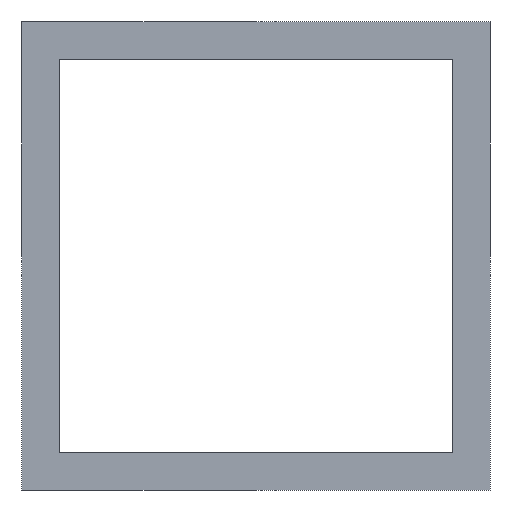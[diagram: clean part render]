
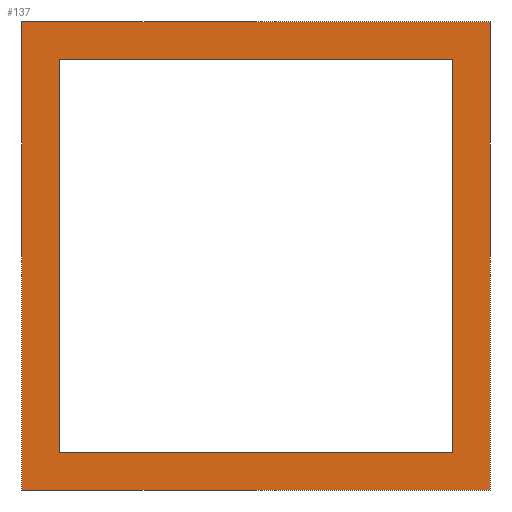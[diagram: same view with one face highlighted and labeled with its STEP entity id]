
A CAD part, front view. The second image highlights one B-rep face of the part: STEP entity #137.
In plain terms, the highlighted planar face has unit normal (0, -1, 0).
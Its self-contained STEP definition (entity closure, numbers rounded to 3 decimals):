
#21 = EDGE_CURVE('',#22,#24,#26,.T.);
#22 = VERTEX_POINT('',#23);
#23 = CARTESIAN_POINT('',(-1000.,-680.,1000.));
#24 = VERTEX_POINT('',#25);
#25 = CARTESIAN_POINT('',(-1000.,-680.,1100.));
#26 = SURFACE_CURVE('',#27,(#31,#43),.PCURVE_S1.);
#27 = LINE('',#28,#29);
#28 = CARTESIAN_POINT('',(-1000.,-680.,1000.));
#29 = VECTOR('',#30,1.);
#30 = DIRECTION('',(0.,0.,1.));
#31 = PCURVE('',#32,#37);
#32 = PLANE('',#33);
#33 = AXIS2_PLACEMENT_3D('',#34,#35,#36);
#34 = CARTESIAN_POINT('',(-1000.,-680.,1000.));
#35 = DIRECTION('',(1.,0.,0.));
#36 = DIRECTION('',(0.,0.,1.));
#37 = DEFINITIONAL_REPRESENTATION('',(#38),#42);
#38 = LINE('',#39,#40);
#39 = CARTESIAN_POINT('',(0.,0.));
#40 = VECTOR('',#41,1.);
#41 = DIRECTION('',(1.,0.));
#42 = ( GEOMETRIC_REPRESENTATION_CONTEXT(2) 
PARAMETRIC_REPRESENTATION_CONTEXT() REPRESENTATION_CONTEXT('2D SPACE',''
  ) );
#43 = PCURVE('',#44,#49);
#44 = PLANE('',#45);
#45 = AXIS2_PLACEMENT_3D('',#46,#47,#48);
#46 = CARTESIAN_POINT('',(-1000.,-680.,1000.));
#47 = DIRECTION('',(0.,1.,0.));
#48 = DIRECTION('',(0.,0.,1.));
#49 = DEFINITIONAL_REPRESENTATION('',(#50),#54);
#50 = LINE('',#51,#52);
#51 = CARTESIAN_POINT('',(0.,0.));
#52 = VECTOR('',#53,1.);
#53 = DIRECTION('',(1.,0.));
#54 = ( GEOMETRIC_REPRESENTATION_CONTEXT(2) 
PARAMETRIC_REPRESENTATION_CONTEXT() REPRESENTATION_CONTEXT('2D SPACE',''
  ) );
#72 = PLANE('',#73);
#73 = AXIS2_PLACEMENT_3D('',#74,#75,#76);
#74 = CARTESIAN_POINT('',(-1000.,-680.,1000.));
#75 = DIRECTION('',(0.,0.,1.));
#76 = DIRECTION('',(1.,0.,0.));
#126 = PLANE('',#127);
#127 = AXIS2_PLACEMENT_3D('',#128,#129,#130);
#128 = CARTESIAN_POINT('',(-1000.,-680.,1100.));
#129 = DIRECTION('',(0.,0.,1.));
#130 = DIRECTION('',(1.,0.,0.));
#137 = ADVANCED_FACE('',(#138,#213),#44,.F.);
#138 = FACE_BOUND('',#139,.F.);
#139 = EDGE_LOOP('',(#140,#163,#164,#187));
#140 = ORIENTED_EDGE('',*,*,#141,.F.);
#141 = EDGE_CURVE('',#22,#142,#144,.T.);
#142 = VERTEX_POINT('',#143);
#143 = CARTESIAN_POINT('',(-900.,-680.,1000.));
#144 = SURFACE_CURVE('',#145,(#149,#156),.PCURVE_S1.);
#145 = LINE('',#146,#147);
#146 = CARTESIAN_POINT('',(-1000.,-680.,1000.));
#147 = VECTOR('',#148,1.);
#148 = DIRECTION('',(1.,0.,0.));
#149 = PCURVE('',#44,#150);
#150 = DEFINITIONAL_REPRESENTATION('',(#151),#155);
#151 = LINE('',#152,#153);
#152 = CARTESIAN_POINT('',(0.,0.));
#153 = VECTOR('',#154,1.);
#154 = DIRECTION('',(0.,1.));
#155 = ( GEOMETRIC_REPRESENTATION_CONTEXT(2) 
PARAMETRIC_REPRESENTATION_CONTEXT() REPRESENTATION_CONTEXT('2D SPACE',''
  ) );
#156 = PCURVE('',#72,#157);
#157 = DEFINITIONAL_REPRESENTATION('',(#158),#162);
#158 = LINE('',#159,#160);
#159 = CARTESIAN_POINT('',(0.,0.));
#160 = VECTOR('',#161,1.);
#161 = DIRECTION('',(1.,0.));
#162 = ( GEOMETRIC_REPRESENTATION_CONTEXT(2) 
PARAMETRIC_REPRESENTATION_CONTEXT() REPRESENTATION_CONTEXT('2D SPACE',''
  ) );
#163 = ORIENTED_EDGE('',*,*,#21,.T.);
#164 = ORIENTED_EDGE('',*,*,#165,.T.);
#165 = EDGE_CURVE('',#24,#166,#168,.T.);
#166 = VERTEX_POINT('',#167);
#167 = CARTESIAN_POINT('',(-900.,-680.,1100.));
#168 = SURFACE_CURVE('',#169,(#173,#180),.PCURVE_S1.);
#169 = LINE('',#170,#171);
#170 = CARTESIAN_POINT('',(-1000.,-680.,1100.));
#171 = VECTOR('',#172,1.);
#172 = DIRECTION('',(1.,0.,0.));
#173 = PCURVE('',#44,#174);
#174 = DEFINITIONAL_REPRESENTATION('',(#175),#179);
#175 = LINE('',#176,#177);
#176 = CARTESIAN_POINT('',(100.,0.));
#177 = VECTOR('',#178,1.);
#178 = DIRECTION('',(0.,1.));
#179 = ( GEOMETRIC_REPRESENTATION_CONTEXT(2) 
PARAMETRIC_REPRESENTATION_CONTEXT() REPRESENTATION_CONTEXT('2D SPACE',''
  ) );
#180 = PCURVE('',#126,#181);
#181 = DEFINITIONAL_REPRESENTATION('',(#182),#186);
#182 = LINE('',#183,#184);
#183 = CARTESIAN_POINT('',(0.,0.));
#184 = VECTOR('',#185,1.);
#185 = DIRECTION('',(1.,0.));
#186 = ( GEOMETRIC_REPRESENTATION_CONTEXT(2) 
PARAMETRIC_REPRESENTATION_CONTEXT() REPRESENTATION_CONTEXT('2D SPACE',''
  ) );
#187 = ORIENTED_EDGE('',*,*,#188,.F.);
#188 = EDGE_CURVE('',#142,#166,#189,.T.);
#189 = SURFACE_CURVE('',#190,(#194,#201),.PCURVE_S1.);
#190 = LINE('',#191,#192);
#191 = CARTESIAN_POINT('',(-900.,-680.,1000.));
#192 = VECTOR('',#193,1.);
#193 = DIRECTION('',(0.,0.,1.));
#194 = PCURVE('',#44,#195);
#195 = DEFINITIONAL_REPRESENTATION('',(#196),#200);
#196 = LINE('',#197,#198);
#197 = CARTESIAN_POINT('',(0.,100.));
#198 = VECTOR('',#199,1.);
#199 = DIRECTION('',(1.,0.));
#200 = ( GEOMETRIC_REPRESENTATION_CONTEXT(2) 
PARAMETRIC_REPRESENTATION_CONTEXT() REPRESENTATION_CONTEXT('2D SPACE',''
  ) );
#201 = PCURVE('',#202,#207);
#202 = PLANE('',#203);
#203 = AXIS2_PLACEMENT_3D('',#204,#205,#206);
#204 = CARTESIAN_POINT('',(-900.,-680.,1000.));
#205 = DIRECTION('',(1.,0.,0.));
#206 = DIRECTION('',(0.,0.,1.));
#207 = DEFINITIONAL_REPRESENTATION('',(#208),#212);
#208 = LINE('',#209,#210);
#209 = CARTESIAN_POINT('',(0.,0.));
#210 = VECTOR('',#211,1.);
#211 = DIRECTION('',(1.,0.));
#212 = ( GEOMETRIC_REPRESENTATION_CONTEXT(2) 
PARAMETRIC_REPRESENTATION_CONTEXT() REPRESENTATION_CONTEXT('2D SPACE',''
  ) );
#213 = FACE_BOUND('',#214,.F.);
#214 = EDGE_LOOP('',(#215,#243,#269,#295));
#215 = ORIENTED_EDGE('',*,*,#216,.F.);
#216 = EDGE_CURVE('',#217,#219,#221,.T.);
#217 = VERTEX_POINT('',#218);
#218 = CARTESIAN_POINT('',(-992.,-680.,1092.));
#219 = VERTEX_POINT('',#220);
#220 = CARTESIAN_POINT('',(-908.,-680.,1092.));
#221 = SURFACE_CURVE('',#222,(#226,#232),.PCURVE_S1.);
#222 = LINE('',#223,#224);
#223 = CARTESIAN_POINT('',(-996.,-680.,1092.));
#224 = VECTOR('',#225,1.);
#225 = DIRECTION('',(1.,0.,0.));
#226 = PCURVE('',#44,#227);
#227 = DEFINITIONAL_REPRESENTATION('',(#228),#231);
#228 = B_SPLINE_CURVE_WITH_KNOTS('',1,(#229,#230),.UNSPECIFIED.,.F.,.F.,
  (2,2),(4.,88.),.PIECEWISE_BEZIER_KNOTS.);
#229 = CARTESIAN_POINT('',(92.,8.));
#230 = CARTESIAN_POINT('',(92.,92.));
#231 = ( GEOMETRIC_REPRESENTATION_CONTEXT(2) 
PARAMETRIC_REPRESENTATION_CONTEXT() REPRESENTATION_CONTEXT('2D SPACE',''
  ) );
#232 = PCURVE('',#233,#238);
#233 = PLANE('',#234);
#234 = AXIS2_PLACEMENT_3D('',#235,#236,#237);
#235 = CARTESIAN_POINT('',(-992.,-681.,1092.));
#236 = DIRECTION('',(0.,0.,1.));
#237 = DIRECTION('',(1.,0.,0.));
#238 = DEFINITIONAL_REPRESENTATION('',(#239),#242);
#239 = B_SPLINE_CURVE_WITH_KNOTS('',1,(#240,#241),.UNSPECIFIED.,.F.,.F.,
  (2,2),(4.,88.),.PIECEWISE_BEZIER_KNOTS.);
#240 = CARTESIAN_POINT('',(0.,1.));
#241 = CARTESIAN_POINT('',(84.,1.));
#242 = ( GEOMETRIC_REPRESENTATION_CONTEXT(2) 
PARAMETRIC_REPRESENTATION_CONTEXT() REPRESENTATION_CONTEXT('2D SPACE',''
  ) );
#243 = ORIENTED_EDGE('',*,*,#244,.T.);
#244 = EDGE_CURVE('',#217,#245,#247,.T.);
#245 = VERTEX_POINT('',#246);
#246 = CARTESIAN_POINT('',(-992.,-680.,1008.));
#247 = SURFACE_CURVE('',#248,(#252,#258),.PCURVE_S1.);
#248 = LINE('',#249,#250);
#249 = CARTESIAN_POINT('',(-992.,-680.,1004.));
#250 = VECTOR('',#251,1.);
#251 = DIRECTION('',(0.,0.,-1.));
#252 = PCURVE('',#44,#253);
#253 = DEFINITIONAL_REPRESENTATION('',(#254),#257);
#254 = B_SPLINE_CURVE_WITH_KNOTS('',1,(#255,#256),.UNSPECIFIED.,.F.,.F.,
  (2,2),(-88.,-4.),.PIECEWISE_BEZIER_KNOTS.);
#255 = CARTESIAN_POINT('',(92.,8.));
#256 = CARTESIAN_POINT('',(8.,8.));
#257 = ( GEOMETRIC_REPRESENTATION_CONTEXT(2) 
PARAMETRIC_REPRESENTATION_CONTEXT() REPRESENTATION_CONTEXT('2D SPACE',''
  ) );
#258 = PCURVE('',#259,#264);
#259 = PLANE('',#260);
#260 = AXIS2_PLACEMENT_3D('',#261,#262,#263);
#261 = CARTESIAN_POINT('',(-992.,-681.,1008.));
#262 = DIRECTION('',(1.,0.,0.));
#263 = DIRECTION('',(0.,0.,1.));
#264 = DEFINITIONAL_REPRESENTATION('',(#265),#268);
#265 = B_SPLINE_CURVE_WITH_KNOTS('',1,(#266,#267),.UNSPECIFIED.,.F.,.F.,
  (2,2),(-88.,-4.),.PIECEWISE_BEZIER_KNOTS.);
#266 = CARTESIAN_POINT('',(84.,-1.));
#267 = CARTESIAN_POINT('',(0.,-1.));
#268 = ( GEOMETRIC_REPRESENTATION_CONTEXT(2) 
PARAMETRIC_REPRESENTATION_CONTEXT() REPRESENTATION_CONTEXT('2D SPACE',''
  ) );
#269 = ORIENTED_EDGE('',*,*,#270,.T.);
#270 = EDGE_CURVE('',#245,#271,#273,.T.);
#271 = VERTEX_POINT('',#272);
#272 = CARTESIAN_POINT('',(-908.,-680.,1008.));
#273 = SURFACE_CURVE('',#274,(#278,#284),.PCURVE_S1.);
#274 = LINE('',#275,#276);
#275 = CARTESIAN_POINT('',(-996.,-680.,1008.));
#276 = VECTOR('',#277,1.);
#277 = DIRECTION('',(1.,0.,0.));
#278 = PCURVE('',#44,#279);
#279 = DEFINITIONAL_REPRESENTATION('',(#280),#283);
#280 = B_SPLINE_CURVE_WITH_KNOTS('',1,(#281,#282),.UNSPECIFIED.,.F.,.F.,
  (2,2),(4.,88.),.PIECEWISE_BEZIER_KNOTS.);
#281 = CARTESIAN_POINT('',(8.,8.));
#282 = CARTESIAN_POINT('',(8.,92.));
#283 = ( GEOMETRIC_REPRESENTATION_CONTEXT(2) 
PARAMETRIC_REPRESENTATION_CONTEXT() REPRESENTATION_CONTEXT('2D SPACE',''
  ) );
#284 = PCURVE('',#285,#290);
#285 = PLANE('',#286);
#286 = AXIS2_PLACEMENT_3D('',#287,#288,#289);
#287 = CARTESIAN_POINT('',(-992.,-681.,1008.));
#288 = DIRECTION('',(0.,0.,1.));
#289 = DIRECTION('',(1.,0.,0.));
#290 = DEFINITIONAL_REPRESENTATION('',(#291),#294);
#291 = B_SPLINE_CURVE_WITH_KNOTS('',1,(#292,#293),.UNSPECIFIED.,.F.,.F.,
  (2,2),(4.,88.),.PIECEWISE_BEZIER_KNOTS.);
#292 = CARTESIAN_POINT('',(0.,1.));
#293 = CARTESIAN_POINT('',(84.,1.));
#294 = ( GEOMETRIC_REPRESENTATION_CONTEXT(2) 
PARAMETRIC_REPRESENTATION_CONTEXT() REPRESENTATION_CONTEXT('2D SPACE',''
  ) );
#295 = ORIENTED_EDGE('',*,*,#296,.F.);
#296 = EDGE_CURVE('',#219,#271,#297,.T.);
#297 = SURFACE_CURVE('',#298,(#302,#308),.PCURVE_S1.);
#298 = LINE('',#299,#300);
#299 = CARTESIAN_POINT('',(-908.,-680.,1004.));
#300 = VECTOR('',#301,1.);
#301 = DIRECTION('',(0.,0.,-1.));
#302 = PCURVE('',#44,#303);
#303 = DEFINITIONAL_REPRESENTATION('',(#304),#307);
#304 = B_SPLINE_CURVE_WITH_KNOTS('',1,(#305,#306),.UNSPECIFIED.,.F.,.F.,
  (2,2),(-88.,-4.),.PIECEWISE_BEZIER_KNOTS.);
#305 = CARTESIAN_POINT('',(92.,92.));
#306 = CARTESIAN_POINT('',(8.,92.));
#307 = ( GEOMETRIC_REPRESENTATION_CONTEXT(2) 
PARAMETRIC_REPRESENTATION_CONTEXT() REPRESENTATION_CONTEXT('2D SPACE',''
  ) );
#308 = PCURVE('',#309,#314);
#309 = PLANE('',#310);
#310 = AXIS2_PLACEMENT_3D('',#311,#312,#313);
#311 = CARTESIAN_POINT('',(-908.,-681.,1008.));
#312 = DIRECTION('',(1.,0.,0.));
#313 = DIRECTION('',(0.,0.,1.));
#314 = DEFINITIONAL_REPRESENTATION('',(#315),#318);
#315 = B_SPLINE_CURVE_WITH_KNOTS('',1,(#316,#317),.UNSPECIFIED.,.F.,.F.,
  (2,2),(-88.,-4.),.PIECEWISE_BEZIER_KNOTS.);
#316 = CARTESIAN_POINT('',(84.,-1.));
#317 = CARTESIAN_POINT('',(0.,-1.));
#318 = ( GEOMETRIC_REPRESENTATION_CONTEXT(2) 
PARAMETRIC_REPRESENTATION_CONTEXT() REPRESENTATION_CONTEXT('2D SPACE',''
  ) );
